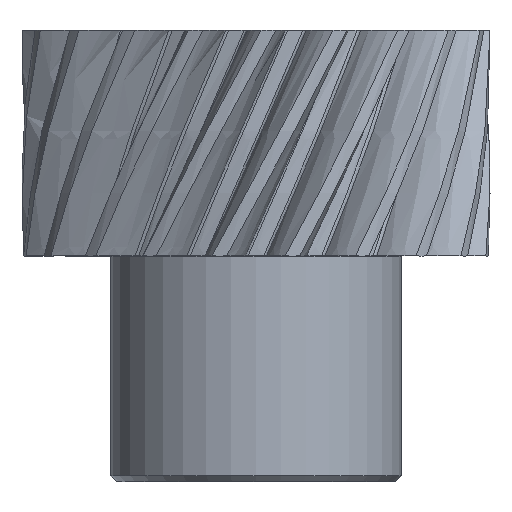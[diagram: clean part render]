
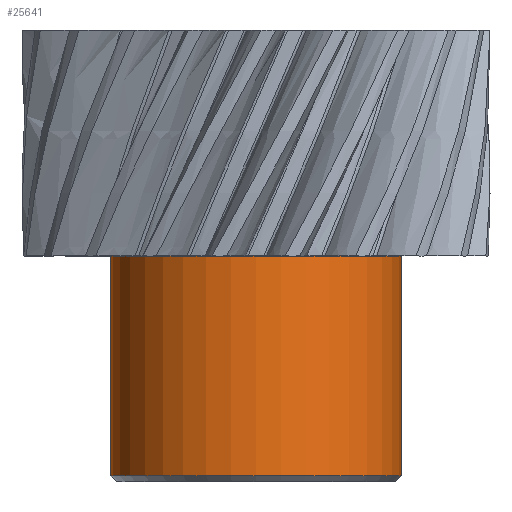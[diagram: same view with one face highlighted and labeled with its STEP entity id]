
A CAD part, left-side view. The second image highlights one B-rep face of the part: STEP entity #25641.
In plain terms, the highlighted cylindrical face has radius 18 mm (diameter 36 mm), a partial arc.
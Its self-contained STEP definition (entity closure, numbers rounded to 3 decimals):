
#526 = CARTESIAN_POINT ( 'NONE',  ( 0., 18., 0. ) ) ;
#1758 = CARTESIAN_POINT ( 'NONE',  ( 0., 0., 0.72 ) ) ;
#6473 = CARTESIAN_POINT ( 'NONE',  ( 0., -18., 0. ) ) ;
#12132 = EDGE_LOOP ( 'NONE', ( #19292, #69873, #54492, #14125 ) ) ;
#14125 = ORIENTED_EDGE ( 'NONE', *, *, #50475, .T. ) ;
#16301 = AXIS2_PLACEMENT_3D ( 'NONE', #70293, #30410, #93399 ) ;
#19292 = ORIENTED_EDGE ( 'NONE', *, *, #63904, .F. ) ;
#23430 = VECTOR ( 'NONE', #71140, 1000. ) ;
#24046 = EDGE_CURVE ( 'NONE', #28202, #97525, #42002, .T. ) ;
#25641 = ADVANCED_FACE ( 'NONE', ( #55492 ), #89956, .T. ) ;
#28202 = VERTEX_POINT ( 'NONE', #60448 ) ;
#30410 = DIRECTION ( 'NONE',  ( 0., 0., -1. ) ) ;
#32439 = EDGE_CURVE ( 'NONE', #51110, #28202, #87069, .T. ) ;
#42002 = LINE ( 'NONE', #526, #23430 ) ;
#43566 = DIRECTION ( 'NONE',  ( 0., 0., 1. ) ) ;
#47515 = AXIS2_PLACEMENT_3D ( 'NONE', #1758, #43566, #88894 ) ;
#48356 = LINE ( 'NONE', #6473, #90167 ) ;
#50475 = EDGE_CURVE ( 'NONE', #97525, #94202, #101562, .T. ) ;
#50542 = CARTESIAN_POINT ( 'NONE',  ( 0., 18., 0.72 ) ) ;
#51110 = VERTEX_POINT ( 'NONE', #81755 ) ;
#54492 = ORIENTED_EDGE ( 'NONE', *, *, #24046, .T. ) ;
#55492 = FACE_OUTER_BOUND ( 'NONE', #12132, .T. ) ;
#60448 = CARTESIAN_POINT ( 'NONE',  ( 0., 18., 28. ) ) ;
#63904 = EDGE_CURVE ( 'NONE', #51110, #94202, #48356, .T. ) ;
#69873 = ORIENTED_EDGE ( 'NONE', *, *, #32439, .T. ) ;
#70293 = CARTESIAN_POINT ( 'NONE',  ( 0., 0., 28. ) ) ;
#71140 = DIRECTION ( 'NONE',  ( 0., 0., -1. ) ) ;
#76737 = CARTESIAN_POINT ( 'NONE',  ( 0., -18., 0.72 ) ) ;
#81521 = CARTESIAN_POINT ( 'NONE',  ( 0., 0., 0. ) ) ;
#81755 = CARTESIAN_POINT ( 'NONE',  ( 0., -18., 28. ) ) ;
#81863 = DIRECTION ( 'NONE',  ( 0., 1., 0. ) ) ;
#87069 = CIRCLE ( 'NONE', #16301, 18. ) ;
#88894 = DIRECTION ( 'NONE',  ( 0., 1., 0. ) ) ;
#89956 = CYLINDRICAL_SURFACE ( 'NONE', #93387, 18. ) ;
#90167 = VECTOR ( 'NONE', #92218, 1000. ) ;
#92218 = DIRECTION ( 'NONE',  ( 0., 0., -1. ) ) ;
#93387 = AXIS2_PLACEMENT_3D ( 'NONE', #81521, #97362, #81863 ) ;
#93399 = DIRECTION ( 'NONE',  ( 0., 1., 0. ) ) ;
#94202 = VERTEX_POINT ( 'NONE', #76737 ) ;
#97362 = DIRECTION ( 'NONE',  ( 0., 0., -1. ) ) ;
#97525 = VERTEX_POINT ( 'NONE', #50542 ) ;
#101562 = CIRCLE ( 'NONE', #47515, 18. ) ;
